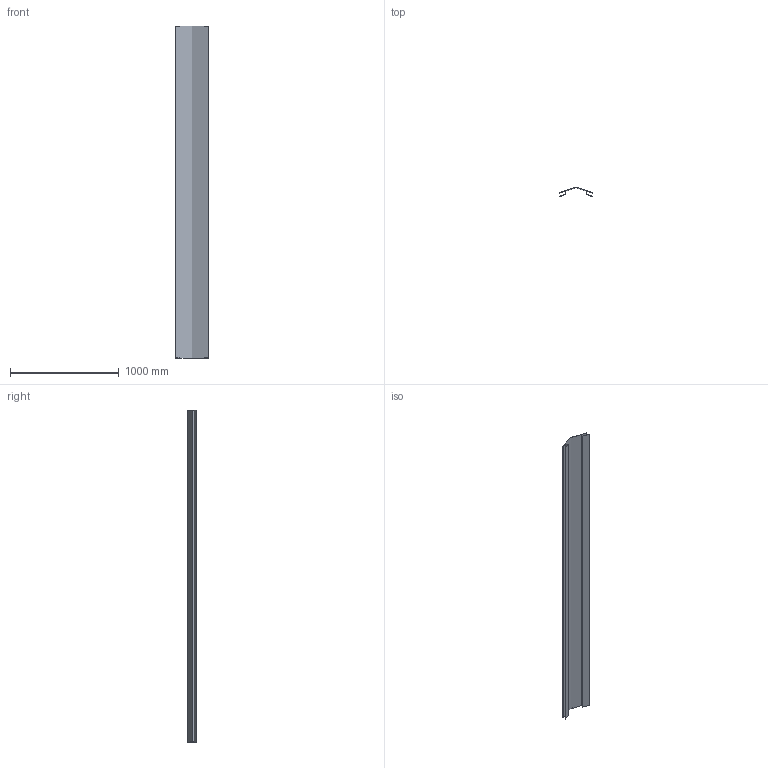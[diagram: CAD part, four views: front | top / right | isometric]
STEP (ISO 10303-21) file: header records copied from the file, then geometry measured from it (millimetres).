
FILE_DESCRIPTION (( 'STEP AP203' ), '1' );
FILE_NAME ('M31A.STEP', '2018-06-15T21:05:06', ( 'Michael Moliner' ), ( '' ), 'SwSTEP 2.0', 'SolidWorks 2018', '' );
FILE_SCHEMA (( 'CONFIG_CONTROL_DESIGN' ));
Length unit declared in the file: inch
Products named in the file (2): M31A
Bounding box: 308.95 x 81.06 x 3048 mm (x, y, z)
Volume: 938954 mm3; surface area: 3700382.2 mm2
Topology: 1 solids, 1 shells, 28 faces, 78 edges, 52 vertices
Faces by surface type: plane 20, cylinder 8
Entity records: 1055 total; most frequent: CARTESIAN_POINT 160, ORIENTED_EDGE 156, DIRECTION 154, EDGE_CURVE 78, LINE 62, VECTOR 62, VERTEX_POINT 52, AXIS2_PLACEMENT_3D 46
